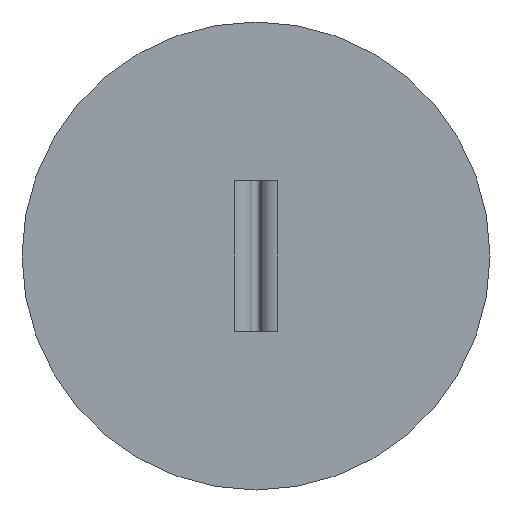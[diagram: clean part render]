
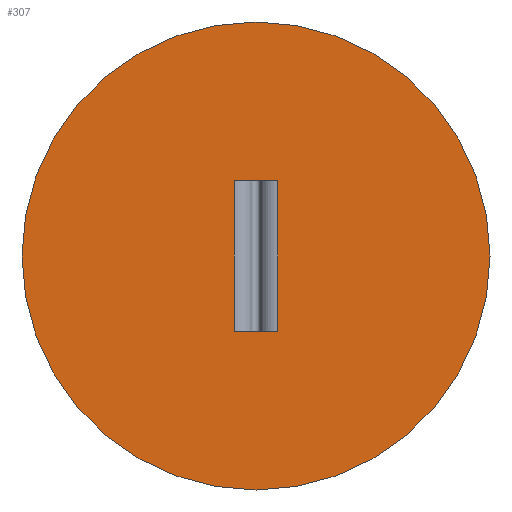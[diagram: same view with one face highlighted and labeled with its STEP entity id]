
A CAD part, front view. The second image highlights one B-rep face of the part: STEP entity #307.
In plain terms, the highlighted planar face has unit normal (0, -1, 0).
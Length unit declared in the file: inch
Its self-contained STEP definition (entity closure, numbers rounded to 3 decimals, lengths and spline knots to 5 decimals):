
#3 = ORIENTED_EDGE ( 'NONE', *, *, #134, .T. ) ;
#12 = CARTESIAN_POINT ( 'NONE',  ( -0.625, -0.042, 0.401 ) ) ;
#14 = LINE ( 'NONE', #49, #93 ) ;
#23 = LINE ( 'NONE', #193, #395 ) ;
#46 = VERTEX_POINT ( 'NONE', #107 ) ;
#49 = CARTESIAN_POINT ( 'NONE',  ( 0.05797, -0.042, 0. ) ) ;
#56 = AXIS2_PLACEMENT_3D ( 'NONE', #273, #99, #95 ) ;
#58 = ORIENTED_EDGE ( 'NONE', *, *, #454, .T. ) ;
#81 = CARTESIAN_POINT ( 'NONE',  ( -0.05797, -0.042, 0. ) ) ;
#88 = CARTESIAN_POINT ( 'NONE',  ( 0., -0.042, 0.8255 ) ) ;
#93 = VECTOR ( 'NONE', #135, 39.37008 ) ;
#95 = DIRECTION ( 'NONE',  ( 0., 0., -1. ) ) ;
#96 = ORIENTED_EDGE ( 'NONE', *, *, #217, .F. ) ;
#99 = DIRECTION ( 'NONE',  ( 0., -1., 0. ) ) ;
#107 = CARTESIAN_POINT ( 'NONE',  ( 0.05797, -0.042, 0. ) ) ;
#119 = ORIENTED_EDGE ( 'NONE', *, *, #471, .T. ) ;
#125 = VERTEX_POINT ( 'NONE', #168 ) ;
#132 = CARTESIAN_POINT ( 'NONE',  ( 0., -0.042, 0.2005 ) ) ;
#134 = EDGE_CURVE ( 'NONE', #453, #219, #223, .T. ) ;
#135 = DIRECTION ( 'NONE',  ( 0., 0., 1. ) ) ;
#148 = FACE_BOUND ( 'NONE', #201, .T. ) ;
#168 = CARTESIAN_POINT ( 'NONE',  ( 0.05797, -0.042, 0.401 ) ) ;
#170 = CARTESIAN_POINT ( 'NONE',  ( -0.05797, -0.042, 0. ) ) ;
#187 = DIRECTION ( 'NONE',  ( 1., 0., 0. ) ) ;
#189 = VECTOR ( 'NONE', #187, 39.37008 ) ;
#190 = CARTESIAN_POINT ( 'NONE',  ( -0.05797, -0.042, 0.401 ) ) ;
#193 = CARTESIAN_POINT ( 'NONE',  ( -0.05797, -0.042, 0.401 ) ) ;
#201 = EDGE_LOOP ( 'NONE', ( #96, #58, #344, #365 ) ) ;
#203 = AXIS2_PLACEMENT_3D ( 'NONE', #12, #218, #294 ) ;
#205 = LINE ( 'NONE', #170, #467 ) ;
#217 = EDGE_CURVE ( 'NONE', #291, #46, #435, .T. ) ;
#218 = DIRECTION ( 'NONE',  ( 0., 1., 0. ) ) ;
#219 = VERTEX_POINT ( 'NONE', #249 ) ;
#221 = VERTEX_POINT ( 'NONE', #190 ) ;
#223 = CIRCLE ( 'NONE', #358, 0.625 ) ;
#225 = CIRCLE ( 'NONE', #56, 0.625 ) ;
#228 = DIRECTION ( 'NONE',  ( 0., 0., 1. ) ) ;
#249 = CARTESIAN_POINT ( 'NONE',  ( 0., -0.042, -0.4245 ) ) ;
#273 = CARTESIAN_POINT ( 'NONE',  ( 0., -0.042, 0.2005 ) ) ;
#290 = CARTESIAN_POINT ( 'NONE',  ( -0.05797, -0.042, 0. ) ) ;
#291 = VERTEX_POINT ( 'NONE', #81 ) ;
#294 = DIRECTION ( 'NONE',  ( 0., 0., 1. ) ) ;
#297 = FACE_OUTER_BOUND ( 'NONE', #374, .T. ) ;
#302 = DIRECTION ( 'NONE',  ( 1., 0., 0. ) ) ;
#307 = ADVANCED_FACE ( 'NONE', ( #297, #148 ), #337, .F. ) ;
#337 = PLANE ( 'NONE',  #203 ) ;
#344 = ORIENTED_EDGE ( 'NONE', *, *, #433, .T. ) ;
#354 = DIRECTION ( 'NONE',  ( 0., 0., -1. ) ) ;
#358 = AXIS2_PLACEMENT_3D ( 'NONE', #132, #426, #354 ) ;
#365 = ORIENTED_EDGE ( 'NONE', *, *, #398, .F. ) ;
#374 = EDGE_LOOP ( 'NONE', ( #119, #3 ) ) ;
#395 = VECTOR ( 'NONE', #302, 39.37008 ) ;
#398 = EDGE_CURVE ( 'NONE', #46, #125, #14, .T. ) ;
#426 = DIRECTION ( 'NONE',  ( 0., -1., 0. ) ) ;
#433 = EDGE_CURVE ( 'NONE', #221, #125, #23, .T. ) ;
#435 = LINE ( 'NONE', #290, #189 ) ;
#453 = VERTEX_POINT ( 'NONE', #88 ) ;
#454 = EDGE_CURVE ( 'NONE', #291, #221, #205, .T. ) ;
#467 = VECTOR ( 'NONE', #228, 39.37008 ) ;
#471 = EDGE_CURVE ( 'NONE', #219, #453, #225, .T. ) ;
